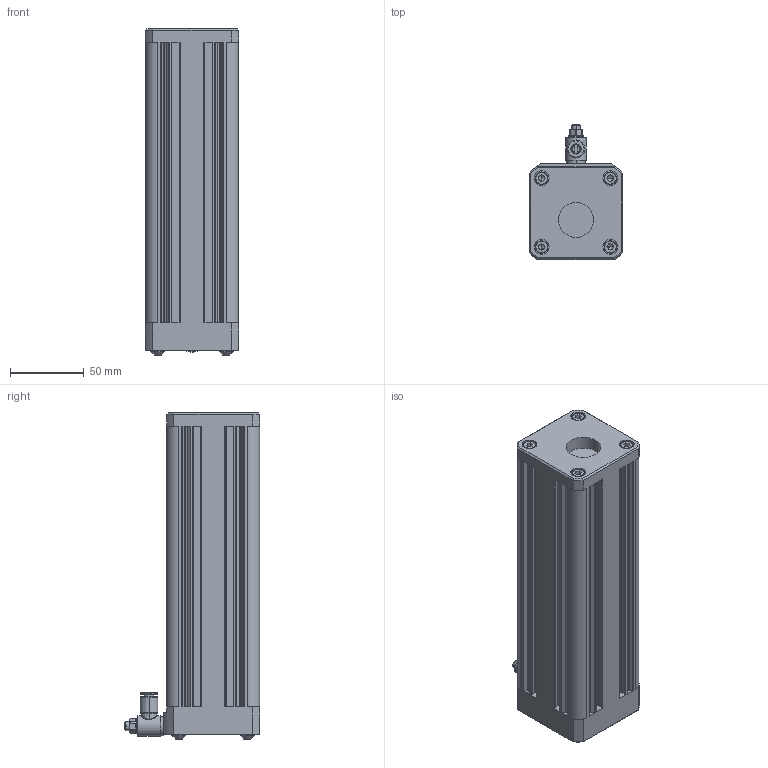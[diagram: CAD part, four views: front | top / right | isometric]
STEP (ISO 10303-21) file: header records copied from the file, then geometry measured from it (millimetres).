
FILE_DESCRIPTION (( 'STEP AP203' ), '1' );
FILE_NAME ('VNOK-B-AL-E-0050-0190.STEP', '2019-02-06T13:02:12', ( '' ), ( '' ), 'SwSTEP 2.0', 'SolidWorks 2018', '' );
FILE_SCHEMA (( 'CONFIG_CONTROL_DESIGN' ));
Length unit declared in the file: millimetre
Products named in the file (1): VNOK-B-AL-E-0050-0190
Bounding box: 63 x 91.6 x 220.75 mm (x, y, z)
Volume: 797462 mm3; surface area: 83344.4 mm2
Topology: 1 solids, 12 shells, 559 faces, 1385 edges, 875 vertices
Faces by surface type: plane 276, cylinder 195, bspline 45, cone 43
Entity records: 19117 total; most frequent: CARTESIAN_POINT 5676, DIRECTION 2876, ORIENTED_EDGE 2738, EDGE_CURVE 1369, AXIS2_PLACEMENT_3D 1064, VERTEX_POINT 875, VECTOR 748, LINE 748
